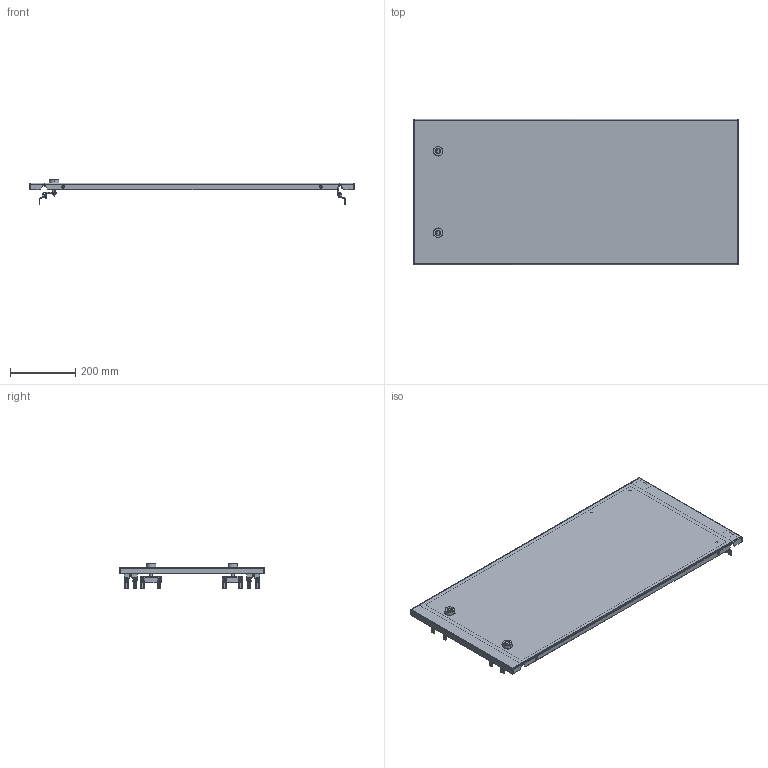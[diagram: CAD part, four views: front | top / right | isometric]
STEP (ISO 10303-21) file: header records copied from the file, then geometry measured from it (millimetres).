
FILE_DESCRIPTION(('CAx-IF Rec.Pracs.---Model Styling and Organization---1.2---2011-12-15','CAx-IF Rec.Pracs.---Geometric and Assembly Validation Properties---4.1---2014-06-16','CAx-IF Rec.Pracs.---PMI Polyline Presentation---2.0---2013-05-24'),'2;1');
FILE_NAME('R5CPMEM10450.stp','2021-05-06T04:00:10+03:00',(''),(''),'STEP Interface 4.4 by CT CoreTechnologie','3D_Evolution4.4 by CT CoreTechnologie','');
FILE_SCHEMA(('AUTOMOTIVE_DESIGN { 1 0 10303 214 1 1 1 1 }'));
Length unit declared in the file: millimetre
Products named in the file (17): R5CPMEM10450; M6 x 16-DIN 7991 ISR_thread; RB.0116.00.00.2_-00; AC00C485; RB.0556.00.00.3 ÑÁ_-15; AC00C061_AC00C061; AC00C266; Ì6õ12-A5100231_thread; PF 7x14 R5PKEB_0450x1000; RB.0556.00.01.1_-15; Ì6õ12-A5100231_straight; MS737-1-1(1); MS737-1-1 Z_ ªàëâ; MS737-1-1 stop_fixed; RB.0687.00.00.1; AC00C745; MS737-1-1(2)
Assembly tree (39 placements, depth 3):
  R5CPMEM10450
    M6 x 16-DIN 7991 ISR_thread  x8
    RB.0116.00.00.2_-00  x2
    AC00C485  x8
    RB.0556.00.00.3 ÑÁ_-15
      AC00C061_AC00C061  x3
      AC00C266  x2
      Ì6õ12-A5100231_thread  x2
      PF 7x14 R5PKEB_0450x1000
      RB.0556.00.01.1_-15
      Ì6õ12-A5100231_straight
    MS737-1-1(1)
      MS737-1-1 Z_ ªàëâ
      MS737-1-1 stop_fixed
    RB.0687.00.00.1  x2
    AC00C745  x2
    MS737-1-1(2)
      MS737-1-1 stop_fixed
      MS737-1-1 Z_ ªàëâ
Bounding box: 994 x 445 x 77.95 mm (x, y, z)
Surface area: 1145327 mm2 (no closed solid volume)
Topology: 0 solids, 60 shells, 2336 faces, 6120 edges, 3886 vertices
Faces by surface type: bspline 868, cylinder 772, plane 696
Entity records: 35296 total; most frequent: CARTESIAN_POINT 11620, ORIENTED_EDGE 4966, DIRECTION 4620, EDGE_CURVE 2483, AXIS2_PLACEMENT_3D 1678, VERTEX_POINT 1602, VECTOR 1264, LINE 1264
